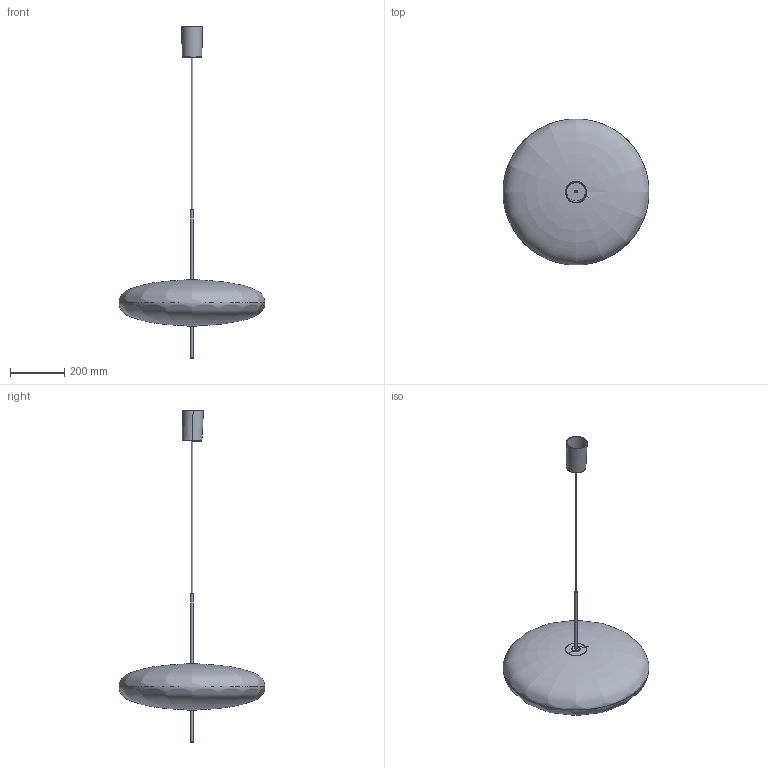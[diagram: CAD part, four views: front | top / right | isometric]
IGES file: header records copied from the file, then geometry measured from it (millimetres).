
Global section: file name: /Users/nicholas/Google Drive/astep/PR & Marketing /CAD Public/2065/Model 2065 CAD.igs; preprocessor: Trout Lake IGES 012 Jul 15 2015; date: 170609.120435; units: millimetre
Bounding box: 537.99 x 537.99 x 1225.13 mm (x, y, z)
Surface area: 1219391.3 mm2 (no closed solid volume)
Topology: 0 solids, 0 shells, 76 faces, 394 edges, 386 vertices
Faces by surface type: bspline 76
